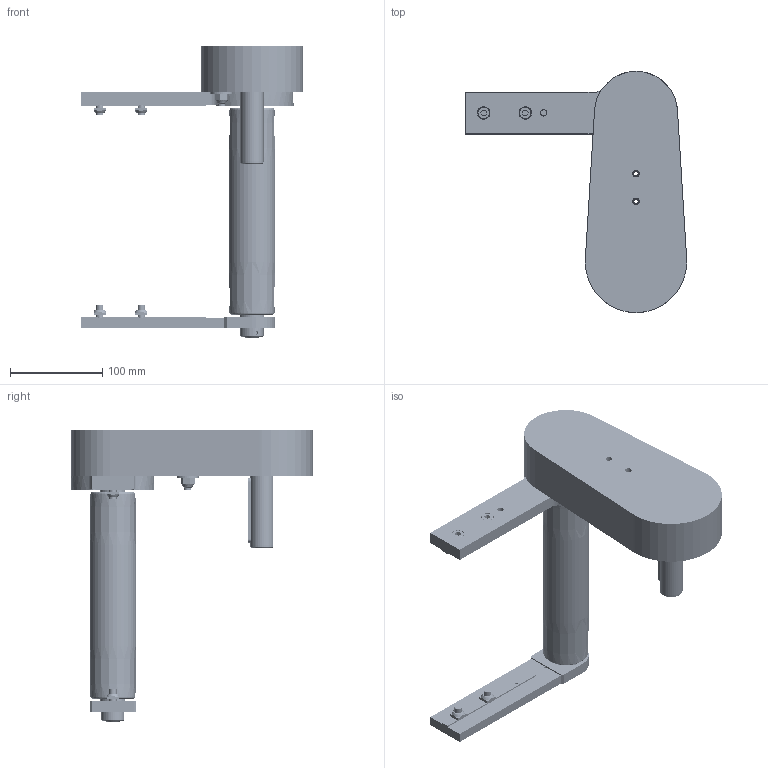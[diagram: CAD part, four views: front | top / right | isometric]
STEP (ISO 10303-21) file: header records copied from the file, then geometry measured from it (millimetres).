
FILE_DESCRIPTION (( 'STEP AP203' ), '1' );
FILE_NAME ('084.050.KTC.49.200.STEP', '2019-07-29T13:23:29', ( '' ), ( '' ), 'SwSTEP 2.0', 'SolidWorks 2018', '' );
FILE_SCHEMA (( 'CONFIG_CONTROL_DESIGN' ));
Length unit declared in the file: millimetre
Products named in the file (24): 084.302.000 DADI ALUSIC 13x13_084.302.004; 084.807.002_084.807.002; RONDELLE FASCIA LARGA UNI 6593_8.4x24 UNI 6593; 084.815.103_Default<A macchina>; 084.809.003; 084.813.005; CUSCINETTI A SFERE_608-2RS; 084.809.002; 084.802.017_084.802.017; 084.803.012; 084.810.010; 084.810.005; 084.807.001_084.807.001; DADI ESAGONALI AUTOBLOCCANTI UNI 7473 INOX_M8 UNI 7473 INOX; 084.802.034_084.802.034; 084.811.004; 084.810.004; 084.813.001; 084.810.001; Circlip DIN 471 - 8 x 0.8_Circlip DIN 471 - 8 x 0.8; 084.803.014; CHIAVETTE_A 8x7x70 UNI 6604-69; 084.301.000 VITI ALUSIC_084.301.003; 084.050.KTC.49.200
Assembly tree (32 placements, depth 3):
  084.050.KTC.49.200
    084.815.103_Default<A macchina>
    084.811.004
    084.813.001
    084.810.001  x2
    084.802.034_084.802.034
    084.802.017_084.802.017
    084.807.001_084.807.001
    084.807.002_084.807.002
    084.803.014  x2
    084.803.012
    084.809.002
    084.809.003
    084.810.005
      084.810.010
      084.810.004
      CUSCINETTI A SFERE_608-2RS  x2
      Circlip DIN 471 - 8 x 0.8_Circlip DIN 471 - 8 x 0.8
      RONDELLE FASCIA LARGA UNI 6593_8.4x24 UNI 6593
      DADI ESAGONALI AUTOBLOCCANTI UNI 7473 INOX_M8 UNI 7473 INOX
    084.301.000 VITI ALUSIC_084.301.003  x4
    084.302.000 DADI ALUSIC 13x13_084.302.004  x4
    CHIAVETTE_A 8x7x70 UNI 6604-69
    084.813.005
Bounding box: 240 x 261.5 x 316 mm (x, y, z)
Volume: 817579 mm3; surface area: 459008 mm2
Topology: 61 solids, 62 shells, 2854 faces, 6735 edges, 4305 vertices
Faces by surface type: cylinder 1399, plane 720, bspline 468, cone 172, torus 86, sphere 9
Entity records: 81297 total; most frequent: CARTESIAN_POINT 18493, DIRECTION 13655, ORIENTED_EDGE 11868, EDGE_CURVE 5934, AXIS2_PLACEMENT_3D 5764, VERTEX_POINT 3782, CIRCLE 3644, EDGE_LOOP 3104
